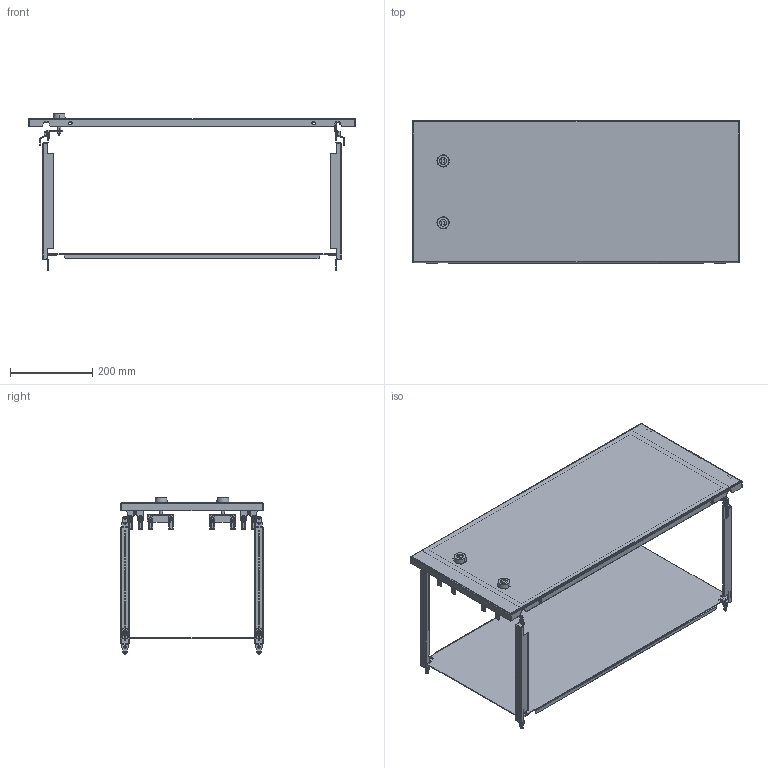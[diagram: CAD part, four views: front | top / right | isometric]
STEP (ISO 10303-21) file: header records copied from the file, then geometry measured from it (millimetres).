
FILE_DESCRIPTION(('CAx-IF Rec.Pracs.---Model Styling and Organization---1.2---2011-12-15','CAx-IF Rec.Pracs.---Geometric and Assembly Validation Properties---4.1---2014-06-16','CAx-IF Rec.Pracs.---PMI Polyline Presentation---2.0---2013-05-24'),'2;1');
FILE_NAME('R5PKEB0835.stp','2021-05-05T13:49:04+03:00',(''),(''),'STEP Interface 4.4 by CT CoreTechnologie','3D_Evolution4.4 by CT CoreTechnologie','');
FILE_SCHEMA(('AUTOMOTIVE_DESIGN { 1 0 10303 214 1 1 1 1 }'));
Length unit declared in the file: millimetre
Products named in the file (20): R5PKEB0835; RB.0348.00.00.0_-00; RB.0329.00.00.0_-00; R5CPMEM_R5CPMEM8350; RB.0116.00.00.2_-00; AC00C485; M6 x 16-DIN 7991 ISR_thread; RB.0687.00.00.1_-00; AC00C745; MS737-1-1(1); MS737-1-1 stop_fixed; MS737-1-1 Z_ ªàëâ; MS737-1-1(2); RB.0556.00.00.2 ÑÁ_-06; Ì6õ12-A5100231_straight; RB.0556.00.01.1_-06; AC00C266; PF 7x14 R5PKEB_0350x0800; AC00C061_AC00C061; RB.0586.00.00.0_-09
Assembly tree (45 placements, depth 4):
  R5PKEB0835
    RB.0348.00.00.0_-00  x4
    RB.0329.00.00.0_-00  x4
    R5CPMEM_R5CPMEM8350
      RB.0116.00.00.2_-00  x2
      AC00C485  x8
      M6 x 16-DIN 7991 ISR_thread  x8
      RB.0687.00.00.1_-00  x2
      AC00C745  x2
      MS737-1-1(1)
        MS737-1-1 stop_fixed
        MS737-1-1 Z_ ªàëâ
      MS737-1-1(2)
        MS737-1-1 stop_fixed
        MS737-1-1 Z_ ªàëâ
      RB.0556.00.00.2 ÑÁ_-06
        Ì6õ12-A5100231_straight
        RB.0556.00.01.1_-06
        AC00C266  x2
        PF 7x14 R5PKEB_0350x0800
        AC00C061_AC00C061
    RB.0586.00.00.0_-09
Bounding box: 794 x 345 x 379.4 mm (x, y, z)
Surface area: 1414599.8 mm2 (no closed solid volume)
Topology: 0 solids, 85 shells, 2372 faces, 6049 edges, 3827 vertices
Faces by surface type: cylinder 1086, plane 968, bspline 318
Entity records: 29082 total; most frequent: CARTESIAN_POINT 7931, DIRECTION 4192, ORIENTED_EDGE 4106, EDGE_CURVE 2053, AXIS2_PLACEMENT_3D 1480, VERTEX_POINT 1315, VECTOR 1232, LINE 1232
